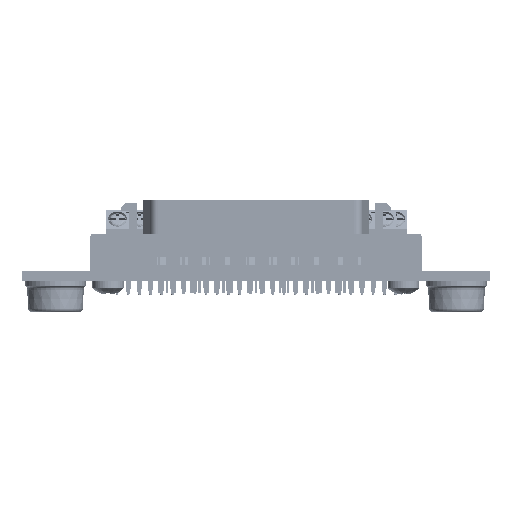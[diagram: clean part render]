
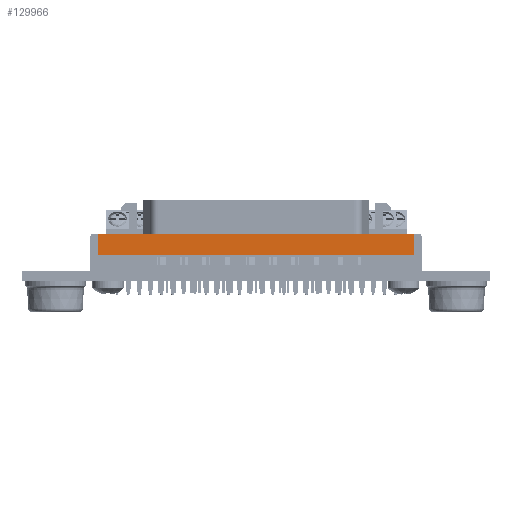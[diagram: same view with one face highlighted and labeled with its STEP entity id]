
A CAD part, left-side view. The second image highlights one B-rep face of the part: STEP entity #129966.
In plain terms, the highlighted planar face has unit normal (-1, 0, 0) as drawn and (0, 0, 1) by its records, which use the part's own axes.
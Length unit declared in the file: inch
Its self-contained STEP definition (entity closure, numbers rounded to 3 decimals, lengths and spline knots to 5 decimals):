
#4688 = CARTESIAN_POINT ( 'NONE',  ( -2.585, 0.035, 0.18 ) ) ;
#10983 = DIRECTION ( 'NONE',  ( 0., 1., 0. ) ) ;
#17369 = LINE ( 'NONE', #180330, #197567 ) ;
#17564 = VECTOR ( 'NONE', #87159, 39.37008 ) ;
#21011 = DIRECTION ( 'NONE',  ( 0., 0., 1. ) ) ;
#21979 = EDGE_LOOP ( 'NONE', ( #25578, #124611, #209752, #169028 ) ) ;
#25578 = ORIENTED_EDGE ( 'NONE', *, *, #207976, .T. ) ;
#27339 = VECTOR ( 'NONE', #10983, 39.37008 ) ;
#33612 = CARTESIAN_POINT ( 'NONE',  ( -1.605, 0.035, 0.18 ) ) ;
#34849 = LINE ( 'NONE', #121637, #27339 ) ;
#36699 = VERTEX_POINT ( 'NONE', #72622 ) ;
#38332 = AXIS2_PLACEMENT_3D ( 'NONE', #4688, #21011, #166453 ) ;
#66583 = EDGE_CURVE ( 'NONE', #36699, #144166, #17369, .T. ) ;
#72622 = CARTESIAN_POINT ( 'NONE',  ( 0.355, 0.23, 0.18 ) ) ;
#74399 = FACE_OUTER_BOUND ( 'NONE', #21979, .T. ) ;
#87159 = DIRECTION ( 'NONE',  ( -1., 0., 0. ) ) ;
#101909 = PLANE ( 'NONE',  #38332 ) ;
#102670 = CARTESIAN_POINT ( 'NONE',  ( -2.585, 0.1, 0.18 ) ) ;
#110950 = VERTEX_POINT ( 'NONE', #185716 ) ;
#120663 = LINE ( 'NONE', #33612, #176632 ) ;
#121637 = CARTESIAN_POINT ( 'NONE',  ( 0.355, 0.035, 0.18 ) ) ;
#124611 = ORIENTED_EDGE ( 'NONE', *, *, #125983, .F. ) ;
#125983 = EDGE_CURVE ( 'NONE', #110950, #140906, #205414, .T. ) ;
#127143 = EDGE_CURVE ( 'NONE', #110950, #36699, #34849, .T. ) ;
#129966 = ADVANCED_FACE ( 'NONE', ( #74399 ), #101909, .T. ) ;
#140906 = VERTEX_POINT ( 'NONE', #152619 ) ;
#144166 = VERTEX_POINT ( 'NONE', #198161 ) ;
#147881 = DIRECTION ( 'NONE',  ( 0., -1., 0. ) ) ;
#152619 = CARTESIAN_POINT ( 'NONE',  ( -1.605, 0.1, 0.18 ) ) ;
#166453 = DIRECTION ( 'NONE',  ( 0., -1., 0. ) ) ;
#169028 = ORIENTED_EDGE ( 'NONE', *, *, #66583, .T. ) ;
#176632 = VECTOR ( 'NONE', #147881, 39.37008 ) ;
#180330 = CARTESIAN_POINT ( 'NONE',  ( -2.585, 0.23, 0.18 ) ) ;
#185716 = CARTESIAN_POINT ( 'NONE',  ( 0.355, 0.1, 0.18 ) ) ;
#197567 = VECTOR ( 'NONE', #198043, 39.37008 ) ;
#198043 = DIRECTION ( 'NONE',  ( -1., 0., 0. ) ) ;
#198161 = CARTESIAN_POINT ( 'NONE',  ( -1.605, 0.23, 0.18 ) ) ;
#205414 = LINE ( 'NONE', #102670, #17564 ) ;
#207976 = EDGE_CURVE ( 'NONE', #144166, #140906, #120663, .T. ) ;
#209752 = ORIENTED_EDGE ( 'NONE', *, *, #127143, .T. ) ;
